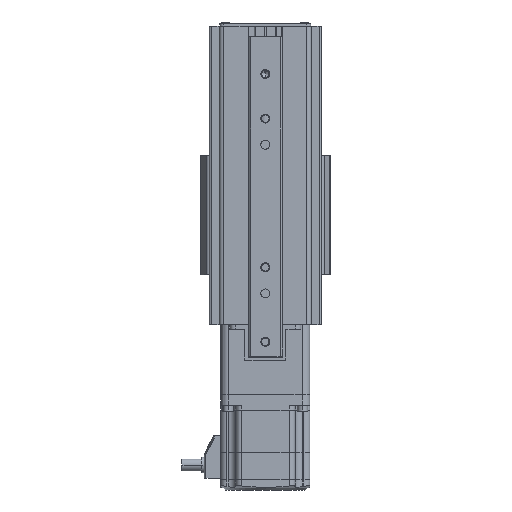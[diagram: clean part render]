
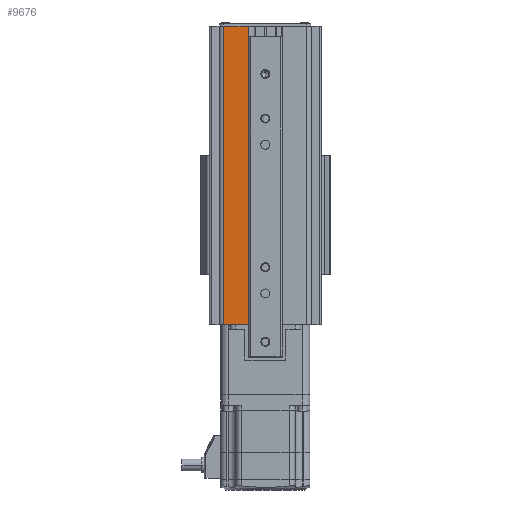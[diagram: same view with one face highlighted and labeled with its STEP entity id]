
A CAD part, front view. The second image highlights one B-rep face of the part: STEP entity #9676.
In plain terms, the highlighted planar face has unit normal (0, -1, 0).
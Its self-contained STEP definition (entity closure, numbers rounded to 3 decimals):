
#2554 = EDGE_LOOP ( 'NONE', ( #8670, #8671, #8672, #8673 ) ) ;
#8670 = ORIENTED_EDGE ( 'NONE', *, *, #9770, .T. ) ;
#8671 = ORIENTED_EDGE ( 'NONE', *, *, #9766, .F. ) ;
#8672 = ORIENTED_EDGE ( 'NONE', *, *, #9771, .T. ) ;
#8673 = ORIENTED_EDGE ( 'NONE', *, *, #33378, .T. ) ;
#9676 = ADVANCED_FACE ( 'NONE', ( #12328 ), #16494, .F. ) ;
#9766 = EDGE_CURVE ( 'NONE', #10632, #10615, #12457, .T. ) ;
#9770 = EDGE_CURVE ( 'NONE', #10862, #10615, #12460, .T. ) ;
#9771 = EDGE_CURVE ( 'NONE', #10632, #10863, #12461, .T. ) ;
#10615 = VERTEX_POINT ( 'NONE', #20463 ) ;
#10632 = VERTEX_POINT ( 'NONE', #20480 ) ;
#10862 = VERTEX_POINT ( 'NONE', #20627 ) ;
#10863 = VERTEX_POINT ( 'NONE', #20628 ) ;
#12328 = FACE_OUTER_BOUND ( 'NONE', #2554, .T. ) ;
#12457 = LINE ( 'NONE', #16793, #15810 ) ;
#12460 = LINE ( 'NONE', #16802, #15814 ) ;
#12461 = LINE ( 'NONE', #16804, #15815 ) ;
#15706 = AXIS2_PLACEMENT_3D ( 'NONE', #16495, #16496, #16497 ) ;
#15810 = VECTOR ( 'NONE', #16794, 1000. ) ;
#15814 = VECTOR ( 'NONE', #16803, 1000. ) ;
#15815 = VECTOR ( 'NONE', #16805, 1000. ) ;
#16494 = PLANE ( 'NONE',  #15706 ) ;
#16495 = CARTESIAN_POINT ( 'NONE',  ( -11.5, -48., -1549.5 ) ) ;
#16496 = DIRECTION ( 'NONE',  ( 0., 1., 0. ) ) ;
#16497 = DIRECTION ( 'NONE',  ( 0., 0., -1. ) ) ;
#16793 = CARTESIAN_POINT ( 'NONE',  ( -11.5, -48., 0. ) ) ;
#16794 = DIRECTION ( 'NONE',  ( -1., 0., 0. ) ) ;
#16802 = CARTESIAN_POINT ( 'NONE',  ( -28., -48., -1549.5 ) ) ;
#16803 = DIRECTION ( 'NONE',  ( 0., 0., -1. ) ) ;
#16804 = CARTESIAN_POINT ( 'NONE',  ( -11.5, -48., -1549.5 ) ) ;
#16805 = DIRECTION ( 'NONE',  ( 0., 0., 1. ) ) ;
#20463 = CARTESIAN_POINT ( 'NONE',  ( -28., -48., 0. ) ) ;
#20480 = CARTESIAN_POINT ( 'NONE',  ( -11.5, -48., 0. ) ) ;
#20627 = CARTESIAN_POINT ( 'NONE',  ( -28., -48., 200.5 ) ) ;
#20628 = CARTESIAN_POINT ( 'NONE',  ( -11.5, -48., 200.5 ) ) ;
#28661 = LINE ( 'NONE', #30821, #31817 ) ;
#30821 = CARTESIAN_POINT ( 'NONE',  ( -11.5, -48., 200.5 ) ) ;
#30822 = DIRECTION ( 'NONE',  ( -1., 0., 0. ) ) ;
#31817 = VECTOR ( 'NONE', #30822, 1000. ) ;
#33378 = EDGE_CURVE ( 'NONE', #10863, #10862, #28661, .T. ) ;
